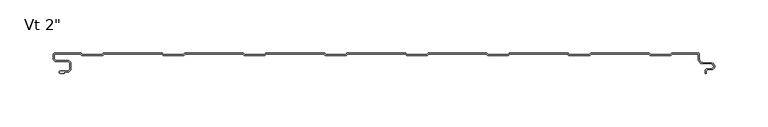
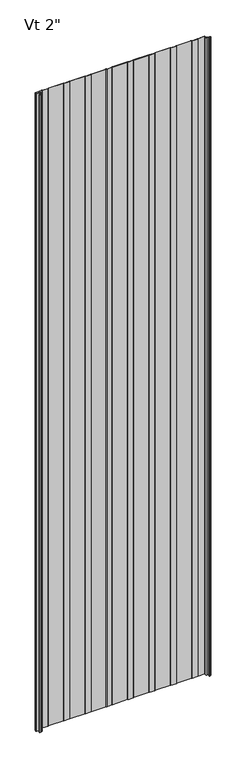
"""IFC4 building model written with IfcOpenShell, lengths in millimetres: plate geometry."""

from ifc_helpers import new_model, si_unit, frame, origin, place, context, project, spatial, polyline, circle_curve, source, transform, mapped, element, save
from ifc_brep_helpers import plane_surface, cylinder_surface, revolved_surface, advanced_brep


def plate_b83bb295(model_context):
    return source(origin(), model_context, "Body", "AdvancedBrep", [
        advanced_brep(
        [(-302.7686912, -17.0015159, 2400.0), (-303.7686884, -18.0015191, 2400.0), (-302.7686912, -19.0015104, 2400.0), (-298.7684875, -19.0015105, 2400.0), (-298.7684875, -18.0015159, 2400.0), (-296.0762777, -18.0015159, 2400.0), (-292.776282, -14.7015202, 2400.0), (-292.776282, -10.301529, 2400.0), (-296.0762775, -7.0015335, 2400.0), (-306.4962564, -7.0015335, 2400.0), (-308.2662506, -5.2315393, 2400.0), (-308.2662506, -0.9999916, 2400.0), (-283.765974, -0.9999916, 2400.0), (-282.3803314, -2.2002307, 2400.0), (-263.0051651, -2.2002307, 2400.0), (-261.6195321, -1.0, 2400.0), (-207.5661167, -1.0, 2400.0), (-206.1804838, -2.2002307, 2400.0), (-186.8053175, -2.2002307, 2400.0), (-185.4196845, -1.0, 2400.0), (-131.3662691, -1.0, 2400.0), (-129.9806362, -2.2002307, 2400.0), (-110.6054699, -2.2002307, 2400.0), (-109.2198369, -1.0, 2400.0), (-55.1664215, -1.0, 2400.0), (-53.7807886, -2.2002307, 2400.0), (-34.4056223, -2.2002307, 2400.0), (-33.0199893, -1.0, 2400.0), (21.0334261, -1.0, 2400.0), (22.419059, -2.2002307, 2400.0), (41.7942253, -2.2002307, 2400.0), (43.1798583, -1.0, 2400.0), (97.2332737, -1.0, 2400.0), (98.6189066, -2.2002307, 2400.0), (117.9940729, -2.2002307, 2400.0), (119.3797059, -1.0, 2400.0), (173.4331213, -1.0, 2400.0), (174.8187542, -2.2002307, 2400.0), (194.1939205, -2.2002307, 2400.0), (195.5795535, -1.0, 2400.0), (249.6329689, -1.0, 2400.0), (251.0186018, -2.2002307, 2400.0), (270.3937681, -2.2002307, 2400.0), (271.7794011, -1.0, 2400.0), (296.2787013, -1.0, 2400.0), (296.2787013, -6.0026007, 2400.0), (300.1016499, -9.9974365, 2400.0), (308.5931719, -10.4046442, 2400.0), (308.5921924, -14.7059822, 2400.0), (304.4513685, -14.9256429, 2400.0), (302.7686884, -16.6743462, 2400.0), (302.7686884, -19.0015288, 2400.0), (303.7686884, -19.0015288, 2400.0), (303.7686884, -16.6743462, 2400.0), (304.4955779, -15.9247038, 2400.0), (308.6451655, -15.7045782, 2400.0), (308.6435732, -9.405912, 2400.0), (300.1495495, -8.9985844, 2400.0), (297.2787013, -6.0004836, 2400.0), (297.2787013, -1.4015652, 2400.0), (295.878797, -0.001568, 2400.0), (271.9275849, 2.09e-05, 2400.0), (271.0119353, -0.3417885, 2400.0), (270.0208877, -1.2002307, 2400.0), (251.3914823, -1.2002307, 2400.0), (250.4004346, -0.3417885, 2400.0), (249.4838177, 0.0, 2400.0), (195.7287046, 0.0, 2400.0), (194.8120877, -0.3417885, 2400.0), (193.8210401, -1.2002307, 2400.0), (175.1916347, -1.2002307, 2400.0), (174.200587, -0.3417885, 2400.0), (173.2839701, 0.0, 2400.0), (119.528857, 0.0, 2400.0), (118.6122401, -0.3417885, 2400.0), (117.6211925, -1.2002307, 2400.0), (98.9917871, -1.2002307, 2400.0), (98.0007394, -0.3417885, 2400.0), (97.0841225, 0.0, 2400.0), (43.3290094, 0.0, 2400.0), (42.4123925, -0.3417885, 2400.0), (41.4213449, -1.2002307, 2400.0), (22.7919395, -1.2002307, 2400.0), (21.8008918, -0.3417885, 2400.0), (20.8842749, 0.0, 2400.0), (-32.8708382, 0.0, 2400.0), (-33.7874551, -0.3417885, 2400.0), (-34.7785027, -1.2002307, 2400.0), (-53.4079081, -1.2002307, 2400.0), (-54.3989558, -0.3417885, 2400.0), (-55.3155727, 0.0, 2400.0), (-109.0706858, 0.0, 2400.0), (-109.9873027, -0.3417885, 2400.0), (-110.9783503, -1.2002307, 2400.0), (-129.6077557, -1.2002307, 2400.0), (-130.5988034, -0.3417885, 2400.0), (-131.5154203, 0.0, 2400.0), (-185.2705334, 0.0, 2400.0), (-186.1871503, -0.3417885, 2400.0), (-187.1781979, -1.2002307, 2400.0), (-205.8076033, -1.2002307, 2400.0), (-206.798651, -0.3417885, 2400.0), (-207.7152679, 0.0, 2400.0), (-261.470381, 0.0, 2400.0), (-262.3869979, -0.3417885, 2400.0), (-263.3780455, -1.2002307, 2400.0), (-282.0074509, -1.2002307, 2400.0), (-282.9984986, -0.3417885, 2400.0), (-283.9152069, 0.0, 2400.0), (-307.8662545, 8.4e-06, 2400.0), (-309.2662506, -1.3999878, 2400.0), (-309.2662506, -5.2315393, 2400.0), (-306.4962564, -8.0015335, 2400.0), (-296.0762775, -8.0015335, 2400.0), (-293.776282, -10.301529, 2400.0), (-293.776282, -14.7015202, 2400.0), (-296.0762777, -17.0015159, 2400.0), (-302.7686912, -17.0015159, 0.0), (-296.0762777, -17.0015159, 0.0), (-293.776282, -14.7015202, 0.0), (-293.776282, -10.301529, 0.0), (-296.0762775, -8.0015335, 0.0), (-306.4962564, -8.0015335, 0.0), (-309.2662506, -5.2315393, 0.0), (-309.2662506, -1.3999878, 0.0), (-307.8662545, 8.4e-06, 0.0), (-283.9151155, 8.4e-06, 0.0), (-282.9984986, -0.3417885, 0.0), (-282.0074509, -1.2002307, 0.0), (-263.3780455, -1.2002307, 0.0), (-262.3869979, -0.3417885, 0.0), (-261.470381, 0.0, 0.0), (-207.7152679, 0.0, 0.0), (-206.798651, -0.3417885, 0.0), (-205.8076033, -1.2002307, 0.0), (-187.1781979, -1.2002307, 0.0), (-186.1871503, -0.3417885, 0.0), (-185.2705334, 0.0, 0.0), (-131.5154203, 0.0, 0.0), (-130.5988034, -0.3417885, 0.0), (-129.6077557, -1.2002307, 0.0), (-110.9783503, -1.2002307, 0.0), (-109.9873027, -0.3417885, 0.0), (-109.0706858, 0.0, 0.0), (-55.3155727, 0.0, 0.0), (-54.3989558, -0.3417885, 0.0), (-53.4079081, -1.2002307, 0.0), (-34.7785027, -1.2002307, 0.0), (-33.7874551, -0.3417885, 0.0), (-32.8708382, 0.0, 0.0), (20.8842749, 0.0, 0.0), (21.8008918, -0.3417885, 0.0), (22.7919395, -1.2002307, 0.0), (41.4213449, -1.2002307, 0.0), (42.4123925, -0.3417885, 0.0), (43.3290094, 0.0, 0.0), (97.0841225, 0.0, 0.0), (98.0007394, -0.3417885, 0.0), (98.9917871, -1.2002307, 0.0), (117.6211925, -1.2002307, 0.0), (118.6122401, -0.3417885, 0.0), (119.528857, 0.0, 0.0), (173.2839701, 0.0, 0.0), (174.200587, -0.3417885, 0.0), (175.1916347, -1.2002307, 0.0), (193.8210401, -1.2002307, 0.0), (194.8120877, -0.3417885, 0.0), (195.7287046, 0.0, 0.0), (249.4838177, 0.0, 0.0), (250.4004346, -0.3417885, 0.0), (251.3914823, -1.2002307, 0.0), (270.0208877, -1.2002307, 0.0), (271.0119353, -0.3417885, 0.0), (271.9285522, 0.0, 0.0), (295.878797, 2.09e-05, 0.0), (297.2787013, -1.4015652, 0.0), (297.2787013, -6.0004836, 0.0), (300.1495495, -8.9985844, 0.0), (308.6435732, -9.405912, 0.0), (308.6451655, -15.7045782, 0.0), (304.4955779, -15.9247038, 0.0), (303.7686884, -16.6743462, 0.0), (303.7686884, -19.0015288, 0.0), (302.7686884, -19.0015288, 0.0), (302.7686884, -16.6743462, 0.0), (304.4513685, -14.9256429, 0.0), (308.5921924, -14.7059822, 0.0), (308.5931719, -10.4046442, 0.0), (300.1016499, -9.9974365, 0.0), (296.2787013, -6.0026007, 0.0), (296.2787013, -1.0, 0.0), (271.7794011, -1.0, 0.0), (270.3937681, -2.2002307, 0.0), (251.0186018, -2.2002307, 0.0), (249.6329689, -1.0, 0.0), (195.5795535, -1.0, 0.0), (194.1939205, -2.2002307, 0.0), (174.8187542, -2.2002307, 0.0), (173.4331213, -1.0, 0.0), (119.3797059, -1.0, 0.0), (117.9940729, -2.2002307, 0.0), (98.6189066, -2.2002307, 0.0), (97.2332737, -1.0, 0.0), (43.1798583, -1.0, 0.0), (41.7942253, -2.2002307, 0.0), (22.419059, -2.2002307, 0.0), (21.0334261, -1.0, 0.0), (-33.0199893, -1.0, 0.0), (-34.4056223, -2.2002307, 0.0), (-53.7807886, -2.2002307, 0.0), (-55.1664215, -1.0, 0.0), (-109.2198369, -1.0, 0.0), (-110.6054699, -2.2002307, 0.0), (-129.9806362, -2.2002307, 0.0), (-131.3662691, -1.0, 0.0), (-185.4196845, -1.0, 0.0), (-186.8053175, -2.2002307, 0.0), (-206.1804838, -2.2002307, 0.0), (-207.5661167, -1.0, 0.0), (-261.6195321, -1.0, 0.0), (-263.0051651, -2.2002307, 0.0), (-282.3803314, -2.2002307, 0.0), (-283.765974, -0.9999916, 0.0), (-308.2662506, -0.9999916, 0.0), (-308.2662506, -5.2315393, 0.0), (-306.4962564, -7.0015335, 0.0), (-296.0762775, -7.0015335, 0.0), (-292.776282, -10.301529, 0.0), (-292.776282, -14.7015202, 0.0), (-296.0762777, -18.0015159, 0.0), (-298.7684875, -18.0015159, 0.0), (-298.7684875, -19.0015105, 0.0), (-302.7686912, -19.0015105, 0.0), (-303.7686884, -18.0015191, 0.0)],
        [
            (0, 1, circle_curve(frame((-302.7686912, -18.0015132, 2400.0), z_axis=(0.0, 0.0, 1.0), x_axis=(1.0, 0.0, 0.0)), 0.9999973)),
            (1, 2, circle_curve(frame((-302.7686912, -18.0015132, 2400.0), z_axis=(0.0, 0.0, 1.0), x_axis=(1.0, 0.0, 0.0)), 0.9999972)),
            (2, 3),
            (3, 4),
            (4, 5),
            (5, 6, circle_curve(frame((-296.0762777, -14.7015202, 2400.0), z_axis=(0.0, 0.0, 1.0), x_axis=(1.0, 0.0, 0.0)), 3.2999957)),
            (6, 7),
            (7, 8, circle_curve(frame((-296.0762775, -10.301529, 2400.0), z_axis=(0.0, 0.0, 1.0), x_axis=(1.0, 0.0, 0.0)), 3.2999955)),
            (8, 9),
            (9, 10, circle_curve(frame((-306.4962564, -5.2315393, 2400.0), z_axis=(0.0, 0.0, -1.0), x_axis=(1.0, 0.0, 0.0)), 1.7699942)),
            (10, 11),
            (11, 12),
            (12, 13),
            (13, 14),
            (14, 15),
            (15, 16),
            (16, 17),
            (17, 18),
            (18, 19),
            (19, 20),
            (20, 21),
            (21, 22),
            (22, 23),
            (23, 24),
            (24, 25),
            (25, 26),
            (26, 27),
            (27, 28),
            (28, 29),
            (29, 30),
            (30, 31),
            (31, 32),
            (32, 33),
            (33, 34),
            (34, 35),
            (35, 36),
            (36, 37),
            (37, 38),
            (38, 39),
            (39, 40),
            (40, 41),
            (41, 42),
            (42, 43),
            (43, 44),
            (44, 45),
            (45, 46, circle_curve(frame((300.2939817, -5.9867338, 2400.0), z_axis=(0.0, 0.0, 1.0), x_axis=(1.0, 0.0, 0.0)), 4.0153117)),
            (46, 47),
            (47, 48, circle_curve(frame((308.4781032, -12.5552871, 2400.0), z_axis=(0.0, 0.0, -1.0), x_axis=(1.0, 0.0, 0.0)), 2.153719)),
            (48, 49),
            (49, 50, circle_curve(frame((304.5186869, -16.6743462, 2400.0), z_axis=(0.0, 0.0, 1.0), x_axis=(1.0, 0.0, 0.0)), 1.7499985)),
            (50, 51),
            (51, 52),
            (52, 53),
            (53, 54, circle_curve(frame((304.5186869, -16.6743462, 2400.0), z_axis=(0.0, 0.0, -1.0), x_axis=(1.0, 0.0, 0.0)), 0.7499985)),
            (54, 55),
            (55, 56, circle_curve(frame((308.4781032, -12.5552871, 2400.0), z_axis=(0.0, 0.0, 1.0), x_axis=(1.0, 0.0, 0.0)), 3.153719)),
            (56, 57),
            (57, 58, circle_curve(frame((300.2939817, -5.9867338, 2400.0), z_axis=(0.0, 0.0, -1.0), x_axis=(1.0, 0.0, 0.0)), 3.0153117)),
            (58, 59),
            (59, 60, circle_curve(frame((295.8787041, -1.4015652, 2400.0), z_axis=(0.0, 0.0, 1.0), x_axis=(1.0, 0.0, 0.0)), 1.3999972)),
            (60, 61),
            (61, 62, circle_curve(frame((271.9285522, -1.3999972, 2400.0), z_axis=(0.0, 0.0, 1.0), x_axis=(1.0, 0.0, 0.0)), 1.3999972)),
            (62, 63),
            (63, 64),
            (64, 65),
            (65, 66, circle_curve(frame((249.4838177, -1.3999972, 2400.0), z_axis=(0.0, 0.0, 1.0), x_axis=(1.0, 0.0, 0.0)), 1.3999972)),
            (66, 67),
            (67, 68, circle_curve(frame((195.7287046, -1.3999972, 2400.0), z_axis=(0.0, 0.0, 1.0), x_axis=(1.0, 0.0, 0.0)), 1.3999972)),
            (68, 69),
            (69, 70),
            (70, 71),
            (71, 72, circle_curve(frame((173.2839701, -1.3999972, 2400.0), z_axis=(0.0, 0.0, 1.0), x_axis=(1.0, 0.0, 0.0)), 1.3999972)),
            (72, 73),
            (73, 74, circle_curve(frame((119.528857, -1.3999972, 2400.0), z_axis=(0.0, 0.0, 1.0), x_axis=(1.0, 0.0, 0.0)), 1.3999972)),
            (74, 75),
            (75, 76),
            (76, 77),
            (77, 78, circle_curve(frame((97.0841225, -1.3999972, 2400.0), z_axis=(0.0, 0.0, 1.0), x_axis=(1.0, 0.0, 0.0)), 1.3999972)),
            (78, 79),
            (79, 80, circle_curve(frame((43.3290094, -1.3999972, 2400.0), z_axis=(0.0, 0.0, 1.0), x_axis=(1.0, 0.0, 0.0)), 1.3999972)),
            (80, 81),
            (81, 82),
            (82, 83),
            (83, 84, circle_curve(frame((20.8842749, -1.3999972, 2400.0), z_axis=(0.0, 0.0, 1.0), x_axis=(1.0, 0.0, 0.0)), 1.3999972)),
            (84, 85),
            (85, 86, circle_curve(frame((-32.8708382, -1.3999972, 2400.0), z_axis=(0.0, 0.0, 1.0), x_axis=(1.0, 0.0, 0.0)), 1.3999972)),
            (86, 87),
            (87, 88),
            (88, 89),
            (89, 90, circle_curve(frame((-55.3155727, -1.3999972, 2400.0), z_axis=(0.0, 0.0, 1.0), x_axis=(1.0, 0.0, 0.0)), 1.3999972)),
            (90, 91),
            (91, 92, circle_curve(frame((-109.0706858, -1.3999972, 2400.0), z_axis=(0.0, 0.0, 1.0), x_axis=(1.0, 0.0, 0.0)), 1.3999972)),
            (92, 93),
            (93, 94),
            (94, 95),
            (95, 96, circle_curve(frame((-131.5154203, -1.3999972, 2400.0), z_axis=(0.0, 0.0, 1.0), x_axis=(1.0, 0.0, 0.0)), 1.3999972)),
            (96, 97),
            (97, 98, circle_curve(frame((-185.2705334, -1.3999972, 2400.0), z_axis=(0.0, 0.0, 1.0), x_axis=(1.0, 0.0, 0.0)), 1.3999972)),
            (98, 99),
            (99, 100),
            (100, 101),
            (101, 102, circle_curve(frame((-207.7152679, -1.3999972, 2400.0), z_axis=(0.0, 0.0, 1.0), x_axis=(1.0, 0.0, 0.0)), 1.3999972)),
            (102, 103),
            (103, 104, circle_curve(frame((-261.470381, -1.3999972, 2400.0), z_axis=(0.0, 0.0, 1.0), x_axis=(1.0, 0.0, 0.0)), 1.3999972)),
            (104, 105),
            (105, 106),
            (106, 107),
            (107, 108, circle_curve(frame((-283.9151155, -1.3999972, 2400.0), z_axis=(0.0, 0.0, 1.0), x_axis=(1.0, 0.0, 0.0)), 1.3999972)),
            (108, 109),
            (109, 110, circle_curve(frame((-307.8662545, -1.3999878, 2400.0), z_axis=(0.0, 0.0, 1.0), x_axis=(1.0, 0.0, 0.0)), 1.3999962)),
            (110, 111),
            (111, 112, circle_curve(frame((-306.4962564, -5.2315393, 2400.0), z_axis=(0.0, 0.0, 1.0), x_axis=(1.0, 0.0, 0.0)), 2.7699942)),
            (112, 113),
            (113, 114, circle_curve(frame((-296.0762775, -10.301529, 2400.0), z_axis=(0.0, 0.0, -1.0), x_axis=(1.0, 0.0, 0.0)), 2.2999955)),
            (114, 115),
            (115, 116, circle_curve(frame((-296.0762777, -14.7015202, 2400.0), z_axis=(0.0, 0.0, -1.0), x_axis=(1.0, 0.0, 0.0)), 2.2999957)),
            (116, 0),
            (117, 118),
            (118, 119, circle_curve(frame((-296.0762777, -14.7015202, 0.0), z_axis=(0.0, 0.0, 1.0), x_axis=(1.0, 0.0, 0.0)), 2.2999957)),
            (119, 120),
            (120, 121, circle_curve(frame((-296.0762775, -10.301529, 0.0), z_axis=(0.0, 0.0, 1.0), x_axis=(1.0, 0.0, 0.0)), 2.2999955)),
            (121, 122),
            (122, 123, circle_curve(frame((-306.4962564, -5.2315393, 0.0), z_axis=(0.0, 0.0, -1.0), x_axis=(1.0, 0.0, 0.0)), 2.7699942)),
            (123, 124),
            (124, 125, circle_curve(frame((-307.8662545, -1.3999878, 0.0), z_axis=(0.0, 0.0, -1.0), x_axis=(1.0, 0.0, 0.0)), 1.3999962)),
            (125, 126),
            (126, 127, circle_curve(frame((-283.9151155, -1.3999972, 0.0), z_axis=(0.0, 0.0, -1.0), x_axis=(1.0, 0.0, 0.0)), 1.3999972)),
            (127, 128),
            (128, 129),
            (129, 130),
            (130, 131, circle_curve(frame((-261.470381, -1.3999972, 0.0), z_axis=(0.0, 0.0, -1.0), x_axis=(1.0, 0.0, 0.0)), 1.3999972)),
            (131, 132),
            (132, 133, circle_curve(frame((-207.7152679, -1.3999972, 0.0), z_axis=(0.0, 0.0, -1.0), x_axis=(1.0, 0.0, 0.0)), 1.3999972)),
            (133, 134),
            (134, 135),
            (135, 136),
            (136, 137, circle_curve(frame((-185.2705334, -1.3999972, 0.0), z_axis=(0.0, 0.0, -1.0), x_axis=(1.0, 0.0, 0.0)), 1.3999972)),
            (137, 138),
            (138, 139, circle_curve(frame((-131.5154203, -1.3999972, 0.0), z_axis=(0.0, 0.0, -1.0), x_axis=(1.0, 0.0, 0.0)), 1.3999972)),
            (139, 140),
            (140, 141),
            (141, 142),
            (142, 143, circle_curve(frame((-109.0706858, -1.3999972, 0.0), z_axis=(0.0, 0.0, -1.0), x_axis=(1.0, 0.0, 0.0)), 1.3999972)),
            (143, 144),
            (144, 145, circle_curve(frame((-55.3155727, -1.3999972, 0.0), z_axis=(0.0, 0.0, -1.0), x_axis=(1.0, 0.0, 0.0)), 1.3999972)),
            (145, 146),
            (146, 147),
            (147, 148),
            (148, 149, circle_curve(frame((-32.8708382, -1.3999972, 0.0), z_axis=(0.0, 0.0, -1.0), x_axis=(1.0, 0.0, 0.0)), 1.3999972)),
            (149, 150),
            (150, 151, circle_curve(frame((20.8842749, -1.3999972, 0.0), z_axis=(0.0, 0.0, -1.0), x_axis=(1.0, 0.0, 0.0)), 1.3999972)),
            (151, 152),
            (152, 153),
            (153, 154),
            (154, 155, circle_curve(frame((43.3290094, -1.3999972, 0.0), z_axis=(0.0, 0.0, -1.0), x_axis=(1.0, 0.0, 0.0)), 1.3999972)),
            (155, 156),
            (156, 157, circle_curve(frame((97.0841225, -1.3999972, 0.0), z_axis=(0.0, 0.0, -1.0), x_axis=(1.0, 0.0, 0.0)), 1.3999972)),
            (157, 158),
            (158, 159),
            (159, 160),
            (160, 161, circle_curve(frame((119.528857, -1.3999972, 0.0), z_axis=(0.0, 0.0, -1.0), x_axis=(1.0, 0.0, 0.0)), 1.3999972)),
            (161, 162),
            (162, 163, circle_curve(frame((173.2839701, -1.3999972, 0.0), z_axis=(0.0, 0.0, -1.0), x_axis=(1.0, 0.0, 0.0)), 1.3999972)),
            (163, 164),
            (164, 165),
            (165, 166),
            (166, 167, circle_curve(frame((195.7287046, -1.3999972, 0.0), z_axis=(0.0, 0.0, -1.0), x_axis=(1.0, 0.0, 0.0)), 1.3999972)),
            (167, 168),
            (168, 169, circle_curve(frame((249.4838177, -1.3999972, 0.0), z_axis=(0.0, 0.0, -1.0), x_axis=(1.0, 0.0, 0.0)), 1.3999972)),
            (169, 170),
            (170, 171),
            (171, 172),
            (172, 173, circle_curve(frame((271.9285522, -1.3999972, 0.0), z_axis=(0.0, 0.0, -1.0), x_axis=(1.0, 0.0, 0.0)), 1.3999972)),
            (173, 174),
            (174, 175, circle_curve(frame((295.8787041, -1.4015652, 0.0), z_axis=(0.0, 0.0, -1.0), x_axis=(1.0, 0.0, 0.0)), 1.3999972)),
            (175, 176),
            (176, 177, circle_curve(frame((300.2939817, -5.9867338, 0.0), z_axis=(0.0, 0.0, 1.0), x_axis=(1.0, 0.0, 0.0)), 3.0153117)),
            (177, 178),
            (178, 179, circle_curve(frame((308.4781032, -12.5552871, 0.0), z_axis=(0.0, 0.0, -1.0), x_axis=(1.0, 0.0, 0.0)), 3.153719)),
            (179, 180),
            (180, 181, circle_curve(frame((304.5186869, -16.6743462, 0.0), z_axis=(0.0, 0.0, 1.0), x_axis=(1.0, 0.0, 0.0)), 0.7499985)),
            (181, 182),
            (182, 183),
            (183, 184),
            (184, 185, circle_curve(frame((304.5186869, -16.6743462, 0.0), z_axis=(0.0, 0.0, -1.0), x_axis=(1.0, 0.0, 0.0)), 1.7499985)),
            (185, 186),
            (186, 187, circle_curve(frame((308.4781032, -12.5552871, 0.0), z_axis=(0.0, 0.0, 1.0), x_axis=(1.0, 0.0, 0.0)), 2.153719)),
            (187, 188),
            (188, 189, circle_curve(frame((300.2939817, -5.9867338, 0.0), z_axis=(0.0, 0.0, -1.0), x_axis=(1.0, 0.0, 0.0)), 4.0153117)),
            (189, 190),
            (190, 191),
            (191, 192),
            (192, 193),
            (193, 194),
            (194, 195),
            (195, 196),
            (196, 197),
            (197, 198),
            (198, 199),
            (199, 200),
            (200, 201),
            (201, 202),
            (202, 203),
            (203, 204),
            (204, 205),
            (205, 206),
            (206, 207),
            (207, 208),
            (208, 209),
            (209, 210),
            (210, 211),
            (211, 212),
            (212, 213),
            (213, 214),
            (214, 215),
            (215, 216),
            (216, 217),
            (217, 218),
            (218, 219),
            (219, 220),
            (220, 221),
            (221, 222),
            (222, 223),
            (223, 224),
            (224, 225, circle_curve(frame((-306.4962564, -5.2315393, 0.0), z_axis=(0.0, 0.0, 1.0), x_axis=(1.0, 0.0, 0.0)), 1.7699942)),
            (225, 226),
            (226, 227, circle_curve(frame((-296.0762775, -10.301529, 0.0), z_axis=(0.0, 0.0, -1.0), x_axis=(1.0, 0.0, 0.0)), 3.2999955)),
            (227, 228),
            (228, 229, circle_curve(frame((-296.0762777, -14.7015202, 0.0), z_axis=(0.0, 0.0, -1.0), x_axis=(1.0, 0.0, 0.0)), 3.2999957)),
            (229, 230),
            (230, 231),
            (231, 232),
            (232, 233, circle_curve(frame((-302.7686912, -18.0015132, 0.0), z_axis=(0.0, 0.0, -1.0), x_axis=(1.0, 0.0, 0.0)), 0.9999972)),
            (233, 117, circle_curve(frame((-302.7686912, -18.0015132, 0.0), z_axis=(0.0, 0.0, -1.0), x_axis=(1.0, 0.0, 0.0)), 0.9999973)),
            (116, 118),
            (117, 0),
            (115, 119),
            (114, 120),
            (113, 121),
            (112, 122),
            (111, 123),
            (110, 124),
            (109, 125),
            (108, 126),
            (90, 144),
            (143, 91),
            (107, 127),
            (106, 128),
            (105, 129),
            (103, 131),
            (130, 104),
            (101, 133),
            (132, 102),
            (86, 148),
            (147, 87),
            (142, 92),
            (141, 93),
            (96, 138),
            (137, 97),
            (89, 145),
            (88, 146),
            (85, 149),
            (136, 98),
            (99, 135),
            (134, 100),
            (95, 139),
            (94, 140),
            (2, 232),
            (231, 3),
            (1, 233),
            (84, 150),
            (83, 151),
            (82, 152),
            (81, 153),
            (80, 154),
            (79, 155),
            (78, 156),
            (77, 157),
            (76, 158),
            (75, 159),
            (74, 160),
            (73, 161),
            (72, 162),
            (71, 163),
            (70, 164),
            (69, 165),
            (68, 166),
            (67, 167),
            (66, 168),
            (65, 169),
            (64, 170),
            (63, 171),
            (62, 172),
            (61, 173),
            (60, 174),
            (59, 175),
            (58, 176),
            (57, 177),
            (56, 178),
            (55, 179),
            (54, 180),
            (53, 181),
            (52, 182),
            (51, 183),
            (50, 184),
            (49, 185),
            (48, 186),
            (47, 187),
            (46, 188),
            (45, 189),
            (44, 190),
            (43, 191),
            (42, 192),
            (41, 193),
            (40, 194),
            (39, 195),
            (38, 196),
            (37, 197),
            (36, 198),
            (35, 199),
            (34, 200),
            (33, 201),
            (32, 202),
            (31, 203),
            (30, 204),
            (29, 205),
            (28, 206),
            (27, 207),
            (26, 208),
            (25, 209),
            (24, 210),
            (23, 211),
            (22, 212),
            (21, 213),
            (20, 214),
            (19, 215),
            (18, 216),
            (17, 217),
            (16, 218),
            (15, 219),
            (14, 220),
            (13, 221),
            (12, 222),
            (11, 223),
            (10, 224),
            (9, 225),
            (8, 226),
            (7, 227),
            (6, 228),
            (5, 229),
            (4, 230),
        ],
        [
            plane_surface(frame((0.0, 0.0, 2400.0), z_axis=(0.0, 0.0, 1.0), x_axis=(0.0, 1.0, 0.0))),
            plane_surface(frame((0.0, 0.0, 0.0), z_axis=(0.0, 0.0, -1.0), x_axis=(0.0, 1.0, 0.0))),
            plane_surface(frame((-302.7686912, -17.0015159, 2400.0), z_axis=(0.0, 1.0, 0.0), x_axis=(0.0, 0.0, -1.0))),
            revolved_surface(polyline([(-293.776282, -14.7015202, 0.0), (-293.776282, -14.7015202, 2400.0)]), (-296.0762777, -14.7015202, 2400.0), (0.0, 0.0, -1.0)),
            plane_surface(frame((-293.776282, -14.7015202, 2400.0), z_axis=(-1.0, 0.0, 0.0), x_axis=(0.0, 0.0, -1.0))),
            revolved_surface(polyline([(-293.776282, -10.301529, 0.0), (-293.776282, -10.301529, 2400.0)]), (-296.0762775, -10.301529, 2400.0), (0.0, 0.0, -1.0)),
            plane_surface(frame((-296.0762775, -8.0015335, 2400.0), z_axis=(0.0, -1.0, 0.0), x_axis=(0.0, 0.0, -1.0))),
            cylinder_surface(frame((-306.4962564, -5.2315393, 2400.0), z_axis=(0.0, 0.0, 1.0), x_axis=(1.0, 0.0, 0.0)), 2.7699942),
            plane_surface(frame((-309.2662506, -5.2315393, 2400.0), z_axis=(-1.0, 0.0, 0.0), x_axis=(0.0, 0.0, -1.0))),
            cylinder_surface(frame((-307.8662545, -1.3999878, 2400.0), z_axis=(0.0, 0.0, 1.0), x_axis=(1.0, 0.0, 0.0)), 1.3999962),
            plane_surface(frame((-307.8662545, 8.4e-06, 2400.0), z_axis=(0.0, 1.0, 0.0), x_axis=(0.0, 0.0, -1.0))),
            plane_surface(frame((-109.0706858, 0.0, 2400.0), z_axis=(0.0, 1.0, 0.0), x_axis=(0.0, 0.0, -1.0))),
            cylinder_surface(frame((-283.9151155, -1.3999972, 2400.0), z_axis=(0.0, 0.0, 1.0), x_axis=(1.0, 0.0, 0.0)), 1.3999972),
            plane_surface(frame((-282.9984986, -0.3417885, 2400.0), z_axis=(0.6547276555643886, 0.755864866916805, 0.0), x_axis=(0.0, 0.0, -1.0))),
            plane_surface(frame((-272.6927482, -1.2002307, 2400.0), z_axis=(0.0, 1.0, 0.0), x_axis=(0.0, 0.0, -1.0))),
            cylinder_surface(frame((-261.470381, -1.3999972, 2400.0), z_axis=(0.0, 0.0, 1.0), x_axis=(1.0, 0.0, 0.0)), 1.3999972),
            plane_surface(frame((-263.3780455, -1.2002307, 2400.0), z_axis=(-0.6547276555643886, 0.755864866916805, 0.0), x_axis=(0.0, 0.0, -1.0))),
            cylinder_surface(frame((-207.7152679, -1.3999972, 2400.0), z_axis=(0.0, 0.0, 1.0), x_axis=(1.0, 0.0, 0.0)), 1.3999972),
            plane_surface(frame((-34.7785027, -1.2002307, 2400.0), z_axis=(-0.6547276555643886, 0.755864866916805, 0.0), x_axis=(0.0, 0.0, -1.0))),
            cylinder_surface(frame((-109.0706858, -1.3999972, 2400.0), z_axis=(0.0, 0.0, 1.0), x_axis=(1.0, 0.0, 0.0)), 1.3999972),
            plane_surface(frame((-110.9783503, -1.2002307, 2400.0), z_axis=(-0.6547276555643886, 0.755864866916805, 0.0), x_axis=(0.0, 0.0, -1.0))),
            plane_surface(frame((-185.2705334, 0.0, 2400.0), z_axis=(0.0, 1.0, 0.0), x_axis=(0.0, 0.0, -1.0))),
            cylinder_surface(frame((-55.3155727, -1.3999972, 2400.0), z_axis=(0.0, 0.0, 1.0), x_axis=(1.0, 0.0, 0.0)), 1.3999972),
            plane_surface(frame((-54.3989558, -0.3417885, 2400.0), z_axis=(0.6547276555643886, 0.755864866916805, 0.0), x_axis=(0.0, 0.0, -1.0))),
            plane_surface(frame((-44.0932054, -1.2002307, 2400.0), z_axis=(0.0, 1.0, 0.0), x_axis=(0.0, 0.0, -1.0))),
            cylinder_surface(frame((-32.8708382, -1.3999972, 2400.0), z_axis=(0.0, 0.0, 1.0), x_axis=(1.0, 0.0, 0.0)), 1.3999972),
            cylinder_surface(frame((-185.2705334, -1.3999972, 2400.0), z_axis=(0.0, 0.0, 1.0), x_axis=(1.0, 0.0, 0.0)), 1.3999972),
            plane_surface(frame((-196.4929006, -1.2002307, 2400.0), z_axis=(0.0, 1.0, 0.0), x_axis=(0.0, 0.0, -1.0))),
            plane_surface(frame((-206.798651, -0.3417885, 2400.0), z_axis=(0.6547276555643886, 0.755864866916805, 0.0), x_axis=(0.0, 0.0, -1.0))),
            plane_surface(frame((-187.1781979, -1.2002307, 2400.0), z_axis=(-0.6547276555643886, 0.755864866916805, 0.0), x_axis=(0.0, 0.0, -1.0))),
            plane_surface(frame((-261.470381, 0.0, 2400.0), z_axis=(0.0, 1.0, 0.0), x_axis=(0.0, 0.0, -1.0))),
            cylinder_surface(frame((-131.5154203, -1.3999972, 2400.0), z_axis=(0.0, 0.0, 1.0), x_axis=(1.0, 0.0, 0.0)), 1.3999972),
            plane_surface(frame((-130.5988034, -0.3417885, 2400.0), z_axis=(0.6547276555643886, 0.755864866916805, 0.0), x_axis=(0.0, 0.0, -1.0))),
            plane_surface(frame((-120.293053, -1.2002307, 2400.0), z_axis=(0.0, 1.0, 0.0), x_axis=(0.0, 0.0, -1.0))),
            plane_surface(frame((-298.7684875, -19.0015105, 2400.0), z_axis=(0.0, -1.0, 0.0), x_axis=(0.0, 0.0, -1.0))),
            cylinder_surface(frame((-302.7686912, -18.0015132, 2400.0), z_axis=(0.0, 0.0, 1.0), x_axis=(1.0, 0.0, 0.0)), 0.9999972),
            cylinder_surface(frame((-302.7686912, -18.0015132, 2400.0), z_axis=(0.0, 0.0, 1.0), x_axis=(1.0, 0.0, 0.0)), 0.9999973),
            plane_surface(frame((-32.8708382, 0.0, 2400.0), z_axis=(0.0, 1.0, 0.0), x_axis=(0.0, 0.0, -1.0))),
            cylinder_surface(frame((20.8842749, -1.3999972, 2400.0), z_axis=(0.0, 0.0, 1.0), x_axis=(1.0, 0.0, 0.0)), 1.3999972),
            plane_surface(frame((21.8008918, -0.3417885, 2400.0), z_axis=(0.6547276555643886, 0.755864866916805, 0.0), x_axis=(0.0, 0.0, -1.0))),
            plane_surface(frame((32.1066422, -1.2002307, 2400.0), z_axis=(0.0, 1.0, 0.0), x_axis=(0.0, 0.0, -1.0))),
            plane_surface(frame((41.4213449, -1.2002307, 2400.0), z_axis=(-0.6547276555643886, 0.755864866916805, 0.0), x_axis=(0.0, 0.0, -1.0))),
            cylinder_surface(frame((43.3290094, -1.3999972, 2400.0), z_axis=(0.0, 0.0, 1.0), x_axis=(1.0, 0.0, 0.0)), 1.3999972),
            plane_surface(frame((43.3290094, 0.0, 2400.0), z_axis=(0.0, 1.0, 0.0), x_axis=(0.0, 0.0, -1.0))),
            cylinder_surface(frame((97.0841225, -1.3999972, 2400.0), z_axis=(0.0, 0.0, 1.0), x_axis=(1.0, 0.0, 0.0)), 1.3999972),
            plane_surface(frame((98.0007394, -0.3417885, 2400.0), z_axis=(0.6547276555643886, 0.755864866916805, 0.0), x_axis=(0.0, 0.0, -1.0))),
            plane_surface(frame((108.3064898, -1.2002307, 2400.0), z_axis=(0.0, 1.0, 0.0), x_axis=(0.0, 0.0, -1.0))),
            plane_surface(frame((117.6211925, -1.2002307, 2400.0), z_axis=(-0.6547276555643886, 0.755864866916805, 0.0), x_axis=(0.0, 0.0, -1.0))),
            cylinder_surface(frame((119.528857, -1.3999972, 2400.0), z_axis=(0.0, 0.0, 1.0), x_axis=(1.0, 0.0, 0.0)), 1.3999972),
            plane_surface(frame((119.528857, 0.0, 2400.0), z_axis=(0.0, 1.0, 0.0), x_axis=(0.0, 0.0, -1.0))),
            cylinder_surface(frame((173.2839701, -1.3999972, 2400.0), z_axis=(0.0, 0.0, 1.0), x_axis=(1.0, 0.0, 0.0)), 1.3999972),
            plane_surface(frame((174.200587, -0.3417885, 2400.0), z_axis=(0.6547276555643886, 0.755864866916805, 0.0), x_axis=(0.0, 0.0, -1.0))),
            plane_surface(frame((184.5063374, -1.2002307, 2400.0), z_axis=(0.0, 1.0, 0.0), x_axis=(0.0, 0.0, -1.0))),
            plane_surface(frame((193.8210401, -1.2002307, 2400.0), z_axis=(-0.6547276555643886, 0.755864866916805, 0.0), x_axis=(0.0, 0.0, -1.0))),
            cylinder_surface(frame((195.7287046, -1.3999972, 2400.0), z_axis=(0.0, 0.0, 1.0), x_axis=(1.0, 0.0, 0.0)), 1.3999972),
            plane_surface(frame((195.7287046, 0.0, 2400.0), z_axis=(0.0, 1.0, 0.0), x_axis=(0.0, 0.0, -1.0))),
            cylinder_surface(frame((249.4838177, -1.3999972, 2400.0), z_axis=(0.0, 0.0, 1.0), x_axis=(1.0, 0.0, 0.0)), 1.3999972),
            plane_surface(frame((250.4004346, -0.3417885, 2400.0), z_axis=(0.6547276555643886, 0.755864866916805, 0.0), x_axis=(0.0, 0.0, -1.0))),
            plane_surface(frame((260.706185, -1.2002307, 2400.0), z_axis=(0.0, 1.0, 0.0), x_axis=(0.0, 0.0, -1.0))),
            plane_surface(frame((270.0208877, -1.2002307, 2400.0), z_axis=(-0.6547276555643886, 0.755864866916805, 0.0), x_axis=(0.0, 0.0, -1.0))),
            cylinder_surface(frame((271.9285522, -1.3999972, 2400.0), z_axis=(0.0, 0.0, 1.0), x_axis=(1.0, 0.0, 0.0)), 1.3999972),
            plane_surface(frame((271.9275849, 2.09e-05, 2400.0), z_axis=(0.0, 1.0, 0.0), x_axis=(0.0, 0.0, -1.0))),
            cylinder_surface(frame((295.8787041, -1.4015652, 2400.0), z_axis=(0.0, 0.0, 1.0), x_axis=(1.0, 0.0, 0.0)), 1.3999972),
            plane_surface(frame((297.2787013, -1.4015652, 2400.0), z_axis=(1.0, 0.0, 0.0), x_axis=(0.0, 0.0, -1.0))),
            revolved_surface(polyline([(303.3092934, -5.9867338, 0.0), (303.3092934, -5.9867338, 2400.0)]), (300.2939817, -5.9867338, 2400.0), (0.0, 0.0, -1.0)),
            plane_surface(frame((300.1495495, -8.9985844, 2400.0), z_axis=(0.047899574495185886, 0.9988521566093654, 0.0), x_axis=(0.0, 0.0, -1.0))),
            cylinder_surface(frame((308.4781032, -12.5552871, 2400.0), z_axis=(0.0, 0.0, 1.0), x_axis=(1.0, 0.0, 0.0)), 3.153719),
            plane_surface(frame((308.6451655, -15.7045782, 2400.0), z_axis=(0.05297310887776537, -0.9985959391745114, 0.0), x_axis=(0.0, 0.0, -1.0))),
            revolved_surface(polyline([(305.2686854, -16.6743462, 0.0), (305.2686854, -16.6743462, 2400.0)]), (304.5186869, -16.6743462, 2400.0), (0.0, 0.0, -1.0)),
            plane_surface(frame((303.7686884, -17.5871409, 2400.0), z_axis=(1.0, 0.0, 0.0), x_axis=(0.0, 0.0, -1.0))),
            plane_surface(frame((303.7686884, -19.0015288, 2400.0), z_axis=(0.0, -1.0, 0.0), x_axis=(0.0, 0.0, -1.0))),
            plane_surface(frame((302.7686884, -17.5871409, 2400.0), z_axis=(-1.0, 0.0, 0.0), x_axis=(0.0, 0.0, -1.0))),
            cylinder_surface(frame((304.5186869, -16.6743462, 2400.0), z_axis=(0.0, 0.0, 1.0), x_axis=(1.0, 0.0, 0.0)), 1.7499985),
            plane_surface(frame((304.4513685, -14.9256429, 2400.0), z_axis=(-0.05297310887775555, 0.998595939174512, 0.0), x_axis=(0.0, 0.0, -1.0))),
            revolved_surface(polyline([(310.63182220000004, -12.5552871, 0.0), (310.63182220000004, -12.5552871, 2400.0)]), (308.4781032, -12.5552871, 2400.0), (0.0, 0.0, -1.0)),
            plane_surface(frame((308.5931719, -10.4046442, 2400.0), z_axis=(-0.04789957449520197, -0.9988521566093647, 0.0), x_axis=(0.0, 0.0, -1.0))),
            cylinder_surface(frame((300.2939817, -5.9867338, 2400.0), z_axis=(0.0, 0.0, 1.0), x_axis=(1.0, 0.0, 0.0)), 4.0153117),
            plane_surface(frame((296.2787013, -6.0026007, 2400.0), z_axis=(-1.0, 0.0, 0.0), x_axis=(0.0, 0.0, -1.0))),
            plane_surface(frame((296.2787013, -1.0, 2400.0), z_axis=(0.0, -1.0, 0.0), x_axis=(0.0, 0.0, -1.0))),
            plane_surface(frame((271.7794011, -1.0, 2400.0), z_axis=(0.6547276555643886, -0.755864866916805, 0.0), x_axis=(0.0, 0.0, -1.0))),
            plane_surface(frame((270.3937681, -2.2002307, 2400.0), z_axis=(0.0, -1.0, 0.0), x_axis=(0.0, 0.0, -1.0))),
            plane_surface(frame((251.0186018, -2.2002307, 2400.0), z_axis=(-0.6547276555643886, -0.755864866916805, 0.0), x_axis=(0.0, 0.0, -1.0))),
            plane_surface(frame((249.6329689, -1.0, 2400.0), z_axis=(0.0, -1.0, 0.0), x_axis=(0.0, 0.0, -1.0))),
            plane_surface(frame((195.5795535, -1.0, 2400.0), z_axis=(0.6547276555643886, -0.755864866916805, 0.0), x_axis=(0.0, 0.0, -1.0))),
            plane_surface(frame((194.1939205, -2.2002307, 2400.0), z_axis=(0.0, -1.0, 0.0), x_axis=(0.0, 0.0, -1.0))),
            plane_surface(frame((174.8187542, -2.2002307, 2400.0), z_axis=(-0.6547276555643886, -0.755864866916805, 0.0), x_axis=(0.0, 0.0, -1.0))),
            plane_surface(frame((173.4331213, -1.0, 2400.0), z_axis=(0.0, -1.0, 0.0), x_axis=(0.0, 0.0, -1.0))),
            plane_surface(frame((119.3797059, -1.0, 2400.0), z_axis=(0.6547276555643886, -0.755864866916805, 0.0), x_axis=(0.0, 0.0, -1.0))),
            plane_surface(frame((117.9940729, -2.2002307, 2400.0), z_axis=(0.0, -1.0, 0.0), x_axis=(0.0, 0.0, -1.0))),
            plane_surface(frame((98.6189066, -2.2002307, 2400.0), z_axis=(-0.6547276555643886, -0.755864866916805, 0.0), x_axis=(0.0, 0.0, -1.0))),
            plane_surface(frame((97.2332737, -1.0, 2400.0), z_axis=(0.0, -1.0, 0.0), x_axis=(0.0, 0.0, -1.0))),
            plane_surface(frame((43.1798583, -1.0, 2400.0), z_axis=(0.6547276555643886, -0.755864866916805, 0.0), x_axis=(0.0, 0.0, -1.0))),
            plane_surface(frame((41.7942253, -2.2002307, 2400.0), z_axis=(0.0, -1.0, 0.0), x_axis=(0.0, 0.0, -1.0))),
            plane_surface(frame((22.419059, -2.2002307, 2400.0), z_axis=(-0.6547276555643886, -0.755864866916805, 0.0), x_axis=(0.0, 0.0, -1.0))),
            plane_surface(frame((21.0334261, -1.0, 2400.0), z_axis=(0.0, -1.0, 0.0), x_axis=(0.0, 0.0, -1.0))),
            plane_surface(frame((-33.0199893, -1.0, 2400.0), z_axis=(0.6547276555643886, -0.755864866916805, 0.0), x_axis=(0.0, 0.0, -1.0))),
            plane_surface(frame((-34.4056223, -2.2002307, 2400.0), z_axis=(0.0, -1.0, 0.0), x_axis=(0.0, 0.0, -1.0))),
            plane_surface(frame((-53.7807886, -2.2002307, 2400.0), z_axis=(-0.6547276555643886, -0.755864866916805, 0.0), x_axis=(0.0, 0.0, -1.0))),
            plane_surface(frame((-55.1664215, -1.0, 2400.0), z_axis=(0.0, -1.0, 0.0), x_axis=(0.0, 0.0, -1.0))),
            plane_surface(frame((-109.2198369, -1.0, 2400.0), z_axis=(0.6547276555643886, -0.755864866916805, 0.0), x_axis=(0.0, 0.0, -1.0))),
            plane_surface(frame((-110.6054699, -2.2002307, 2400.0), z_axis=(0.0, -1.0, 0.0), x_axis=(0.0, 0.0, -1.0))),
            plane_surface(frame((-129.9806362, -2.2002307, 2400.0), z_axis=(-0.6547276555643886, -0.755864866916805, 0.0), x_axis=(0.0, 0.0, -1.0))),
            plane_surface(frame((-131.3662691, -1.0, 2400.0), z_axis=(0.0, -1.0, 0.0), x_axis=(0.0, 0.0, -1.0))),
            plane_surface(frame((-185.4196845, -1.0, 2400.0), z_axis=(0.6547276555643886, -0.755864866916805, 0.0), x_axis=(0.0, 0.0, -1.0))),
            plane_surface(frame((-186.8053175, -2.2002307, 2400.0), z_axis=(0.0, -1.0, 0.0), x_axis=(0.0, 0.0, -1.0))),
            plane_surface(frame((-206.1804838, -2.2002307, 2400.0), z_axis=(-0.6547276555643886, -0.755864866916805, 0.0), x_axis=(0.0, 0.0, -1.0))),
            plane_surface(frame((-207.5661167, -1.0, 2400.0), z_axis=(0.0, -1.0, 0.0), x_axis=(0.0, 0.0, -1.0))),
            plane_surface(frame((-261.6195321, -1.0, 2400.0), z_axis=(0.6547276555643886, -0.755864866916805, 0.0), x_axis=(0.0, 0.0, -1.0))),
            plane_surface(frame((-263.0051651, -2.2002307, 2400.0), z_axis=(0.0, -1.0, 0.0), x_axis=(0.0, 0.0, -1.0))),
            plane_surface(frame((-282.3803314, -2.2002307, 2400.0), z_axis=(-0.6547276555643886, -0.755864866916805, 0.0), x_axis=(0.0, 0.0, -1.0))),
            plane_surface(frame((-283.765974, -0.9999916, 2400.0), z_axis=(0.0, -1.0, 0.0), x_axis=(0.0, 0.0, -1.0))),
            plane_surface(frame((-308.2662506, -0.9999916, 2400.0), z_axis=(1.0, 0.0, 0.0), x_axis=(0.0, 0.0, -1.0))),
            revolved_surface(polyline([(-304.7262622, -5.2315393, 0.0), (-304.7262622, -5.2315393, 2400.0)]), (-306.4962564, -5.2315393, 2400.0), (0.0, 0.0, -1.0)),
            plane_surface(frame((-306.4962564, -7.0015335, 2400.0), z_axis=(0.0, 1.0, 0.0), x_axis=(0.0, 0.0, -1.0))),
            cylinder_surface(frame((-296.0762775, -10.301529, 2400.0), z_axis=(0.0, 0.0, 1.0), x_axis=(1.0, 0.0, 0.0)), 3.2999955),
            plane_surface(frame((-292.776282, -10.301529, 2400.0), z_axis=(1.0, 0.0, 0.0), x_axis=(0.0, 0.0, -1.0))),
            cylinder_surface(frame((-296.0762777, -14.7015202, 2400.0), z_axis=(0.0, 0.0, 1.0), x_axis=(1.0, 0.0, 0.0)), 3.2999957),
            plane_surface(frame((-296.0762777, -18.0015159, 2400.0), z_axis=(0.0, -1.0, 0.0), x_axis=(0.0, 0.0, -1.0))),
            plane_surface(frame((-298.7684875, -18.0015159, 2400.0), z_axis=(1.0, 0.0, 0.0), x_axis=(0.0, 0.0, -1.0))),
        ],
        [
            (0, [[1, 2, 3, 4, 5, 6, 7, 8, 9, 10, 11, 12, 13, 14, 15, 16, 17, 18, 19, 20, 21, 22, 23, 24, 25, 26, 27, 28, 29, 30, 31, 32, 33, 34, 35, 36, 37, 38, 39, 40, 41, 42, 43, 44, 45, 46, 47, 48, 49, 50, 51, 52, 53, 54, 55, 56, 57, 58, 59, 60, 61, 62, 63, 64, 65, 66, 67, 68, 69, 70, 71, 72, 73, 74, 75, 76, 77, 78, 79, 80, 81, 82, 83, 84, 85, 86, 87, 88, 89, 90, 91, 92, 93, 94, 95, 96, 97, 98, 99, 100, 101, 102, 103, 104, 105, 106, 107, 108, 109, 110, 111, 112, 113, 114, 115, 116, 117]]),
            (1, [[118, 119, 120, 121, 122, 123, 124, 125, 126, 127, 128, 129, 130, 131, 132, 133, 134, 135, 136, 137, 138, 139, 140, 141, 142, 143, 144, 145, 146, 147, 148, 149, 150, 151, 152, 153, 154, 155, 156, 157, 158, 159, 160, 161, 162, 163, 164, 165, 166, 167, 168, 169, 170, 171, 172, 173, 174, 175, 176, 177, 178, 179, 180, 181, 182, 183, 184, 185, 186, 187, 188, 189, 190, 191, 192, 193, 194, 195, 196, 197, 198, 199, 200, 201, 202, 203, 204, 205, 206, 207, 208, 209, 210, 211, 212, 213, 214, 215, 216, 217, 218, 219, 220, 221, 222, 223, 224, 225, 226, 227, 228, 229, 230, 231, 232, 233, 234]]),
            (2, [[235, -118, 236, -117]]),
            (3, [[237, -119, -235, -116]]),
            (4, [[238, -120, -237, -115]]),
            (5, [[239, -121, -238, -114]]),
            (6, [[240, -122, -239, -113]]),
            (7, [[241, -123, -240, -112]]),
            (8, [[242, -124, -241, -111]]),
            (9, [[243, -125, -242, -110]]),
            (10, [[244, -126, -243, -109]]),
            (11, [[245, -144, 246, -91]]),
            (12, [[247, -127, -244, -108]]),
            (13, [[248, -128, -247, -107]]),
            (14, [[-106, 249, -129, -248]]),
            (15, [[250, -131, 251, -104]]),
            (16, [[-251, -130, -249, -105]]),
            (17, [[252, -133, 253, -102]]),
            (18, [[254, -148, 255, -87]]),
            (19, [[-246, -143, 256, -92]]),
            (20, [[-256, -142, 257, -93]]),
            (21, [[258, -138, 259, -97]]),
            (22, [[260, -145, -245, -90]]),
            (23, [[261, -146, -260, -89]]),
            (24, [[-88, -255, -147, -261]]),
            (25, [[262, -149, -254, -86]]),
            (26, [[-259, -137, 263, -98]]),
            (27, [[-100, 264, -135, 265]]),
            (28, [[-265, -134, -252, -101]]),
            (29, [[-263, -136, -264, -99]]),
            (30, [[-253, -132, -250, -103]]),
            (31, [[266, -139, -258, -96]]),
            (32, [[267, -140, -266, -95]]),
            (33, [[-94, -257, -141, -267]]),
            (34, [[268, -232, 269, -3]]),
            (35, [[270, -233, -268, -2]]),
            (36, [[-236, -234, -270, -1]]),
            (37, [[271, -150, -262, -85]]),
            (38, [[272, -151, -271, -84]]),
            (39, [[273, -152, -272, -83]]),
            (40, [[-82, 274, -153, -273]]),
            (41, [[275, -154, -274, -81]]),
            (42, [[276, -155, -275, -80]]),
            (43, [[277, -156, -276, -79]]),
            (44, [[278, -157, -277, -78]]),
            (45, [[279, -158, -278, -77]]),
            (46, [[-76, 280, -159, -279]]),
            (47, [[281, -160, -280, -75]]),
            (48, [[282, -161, -281, -74]]),
            (49, [[283, -162, -282, -73]]),
            (50, [[284, -163, -283, -72]]),
            (51, [[285, -164, -284, -71]]),
            (52, [[-70, 286, -165, -285]]),
            (53, [[287, -166, -286, -69]]),
            (54, [[288, -167, -287, -68]]),
            (55, [[289, -168, -288, -67]]),
            (56, [[290, -169, -289, -66]]),
            (57, [[291, -170, -290, -65]]),
            (58, [[-64, 292, -171, -291]]),
            (59, [[293, -172, -292, -63]]),
            (60, [[294, -173, -293, -62]]),
            (61, [[295, -174, -294, -61]]),
            (62, [[296, -175, -295, -60]]),
            (63, [[297, -176, -296, -59]]),
            (64, [[298, -177, -297, -58]]),
            (65, [[299, -178, -298, -57]]),
            (66, [[300, -179, -299, -56]]),
            (67, [[301, -180, -300, -55]]),
            (68, [[302, -181, -301, -54]]),
            (69, [[-53, 303, -182, -302]]),
            (70, [[304, -183, -303, -52]]),
            (71, [[-51, 305, -184, -304]]),
            (72, [[306, -185, -305, -50]]),
            (73, [[307, -186, -306, -49]]),
            (74, [[308, -187, -307, -48]]),
            (75, [[309, -188, -308, -47]]),
            (76, [[310, -189, -309, -46]]),
            (77, [[311, -190, -310, -45]]),
            (78, [[312, -191, -311, -44]]),
            (79, [[313, -192, -312, -43]]),
            (80, [[314, -193, -313, -42]]),
            (81, [[315, -194, -314, -41]]),
            (82, [[316, -195, -315, -40]]),
            (83, [[317, -196, -316, -39]]),
            (84, [[318, -197, -317, -38]]),
            (85, [[319, -198, -318, -37]]),
            (86, [[320, -199, -319, -36]]),
            (87, [[321, -200, -320, -35]]),
            (88, [[322, -201, -321, -34]]),
            (89, [[323, -202, -322, -33]]),
            (90, [[324, -203, -323, -32]]),
            (91, [[325, -204, -324, -31]]),
            (92, [[326, -205, -325, -30]]),
            (93, [[327, -206, -326, -29]]),
            (94, [[328, -207, -327, -28]]),
            (95, [[329, -208, -328, -27]]),
            (96, [[330, -209, -329, -26]]),
            (97, [[331, -210, -330, -25]]),
            (98, [[332, -211, -331, -24]]),
            (99, [[333, -212, -332, -23]]),
            (100, [[334, -213, -333, -22]]),
            (101, [[335, -214, -334, -21]]),
            (102, [[336, -215, -335, -20]]),
            (103, [[337, -216, -336, -19]]),
            (104, [[338, -217, -337, -18]]),
            (105, [[339, -218, -338, -17]]),
            (106, [[340, -219, -339, -16]]),
            (107, [[341, -220, -340, -15]]),
            (108, [[342, -221, -341, -14]]),
            (109, [[343, -222, -342, -13]]),
            (110, [[344, -223, -343, -12]]),
            (111, [[345, -224, -344, -11]]),
            (112, [[346, -225, -345, -10]]),
            (113, [[347, -226, -346, -9]]),
            (114, [[348, -227, -347, -8]]),
            (115, [[349, -228, -348, -7]]),
            (116, [[350, -229, -349, -6]]),
            (117, [[351, -230, -350, -5]]),
            (118, [[-269, -231, -351, -4]]),
        ],
    ),
    ])


if __name__ == "__main__":
    model = new_model("IFC4")
    model_context = context("Model", 3, world=origin())
    ifc_project = project(units=[si_unit("LENGTHUNIT", "METRE", prefix="MILLI")], contexts=[model_context])
    site = spatial("IfcSite", under=ifc_project)
    building = spatial("IfcBuilding", under=site)
    placement = place(None, origin())
    plate_shape = plate_b83bb295(model_context)
    element("IfcPlate", 1, ObjectType="KIP-24-Karrier-KP-R19-CP-Vt-SL3-8in_SL : Vt 2\"", at=placement, inside=building, context=model_context, shape_type="MappedRepresentation", body=[
        mapped(plate_shape, transform((0.0, 0.0, 0.0), x_axis=(1.0, 0.0, 0.0), y_axis=(0.0, 1.0, 0.0), z_axis=(0.0, 0.0, 1.0))),
    ])
    save(model, "model.ifc")
